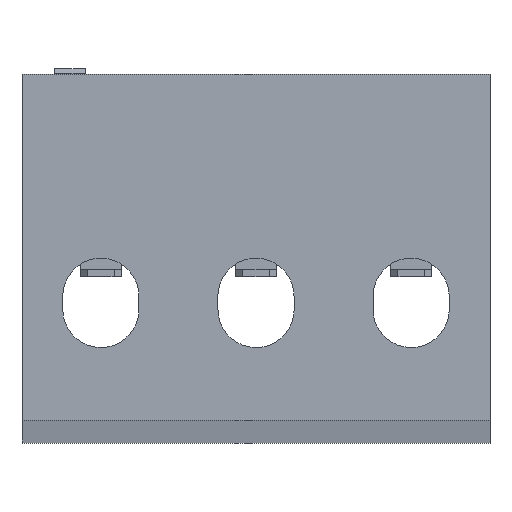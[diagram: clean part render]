
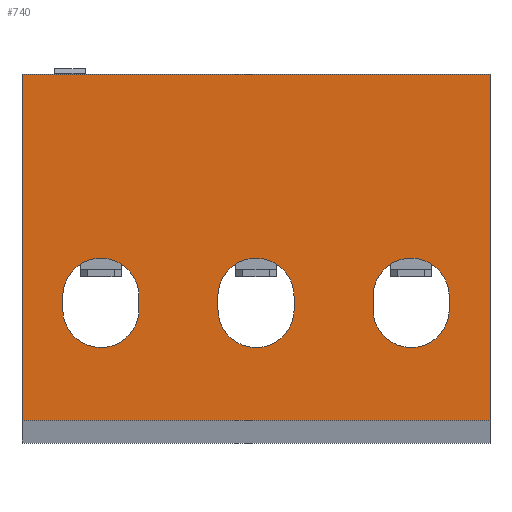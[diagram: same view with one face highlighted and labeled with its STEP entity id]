
A CAD part, front view. The second image highlights one B-rep face of the part: STEP entity #740.
In plain terms, the highlighted planar face has unit normal (0, -1, 0).
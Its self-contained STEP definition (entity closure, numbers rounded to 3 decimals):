
#141=CARTESIAN_POINT('',(-17.7,-4.5,1.75));
#142=DIRECTION('',(0.,-1.,0.));
#143=DIRECTION('',(-0.999,0.,0.035));
#144=AXIS2_PLACEMENT_3D('',#141,#142,#143);
#146=DIRECTION('',(0.,0.,-1.));
#147=VECTOR('',#146,1.5);
#148=CARTESIAN_POINT('',(-22.046,-4.5,1.75));
#149=LINE('',#148,#147);
#150=CARTESIAN_POINT('',(-17.7,-4.5,0.25));
#151=DIRECTION('',(0.,-1.,0.));
#152=DIRECTION('',(-1.,0.,0.));
#153=AXIS2_PLACEMENT_3D('',#150,#151,#152);
#155=CARTESIAN_POINT('',(-17.7,-4.5,0.25));
#156=DIRECTION('',(0.,-1.,0.));
#157=DIRECTION('',(0.999,0.,-0.035));
#158=AXIS2_PLACEMENT_3D('',#155,#156,#157);
#160=DIRECTION('',(0.,0.,1.));
#161=VECTOR('',#160,1.5);
#162=CARTESIAN_POINT('',(-13.354,-4.5,0.25));
#163=LINE('',#162,#161);
#164=CARTESIAN_POINT('',(-17.7,-4.5,1.75));
#165=DIRECTION('',(0.,-1.,0.));
#166=DIRECTION('',(1.,0.,0.));
#167=AXIS2_PLACEMENT_3D('',#164,#165,#166);
#169=CARTESIAN_POINT('',(0.,-4.5,1.75));
#170=DIRECTION('',(0.,-1.,0.));
#171=DIRECTION('',(-0.999,0.,0.035));
#172=AXIS2_PLACEMENT_3D('',#169,#170,#171);
#174=DIRECTION('',(0.,0.,-1.));
#175=VECTOR('',#174,1.5);
#176=CARTESIAN_POINT('',(-4.346,-4.5,1.75));
#177=LINE('',#176,#175);
#178=CARTESIAN_POINT('',(0.,-4.5,0.25));
#179=DIRECTION('',(0.,-1.,0.));
#180=DIRECTION('',(-1.,0.,0.));
#181=AXIS2_PLACEMENT_3D('',#178,#179,#180);
#183=CARTESIAN_POINT('',(0.,-4.5,0.25));
#184=DIRECTION('',(0.,-1.,0.));
#185=DIRECTION('',(0.999,0.,-0.035));
#186=AXIS2_PLACEMENT_3D('',#183,#184,#185);
#188=DIRECTION('',(0.,0.,1.));
#189=VECTOR('',#188,1.5);
#190=CARTESIAN_POINT('',(4.346,-4.5,0.25));
#191=LINE('',#190,#189);
#192=CARTESIAN_POINT('',(0.,-4.5,1.75));
#193=DIRECTION('',(0.,-1.,0.));
#194=DIRECTION('',(1.,0.,0.));
#195=AXIS2_PLACEMENT_3D('',#192,#193,#194);
#197=CARTESIAN_POINT('',(17.7,-4.5,1.75));
#198=DIRECTION('',(0.,-1.,0.));
#199=DIRECTION('',(-0.999,0.,0.035));
#200=AXIS2_PLACEMENT_3D('',#197,#198,#199);
#202=DIRECTION('',(0.,0.,-1.));
#203=VECTOR('',#202,1.5);
#204=CARTESIAN_POINT('',(13.354,-4.5,1.75));
#205=LINE('',#204,#203);
#206=CARTESIAN_POINT('',(17.7,-4.5,0.25));
#207=DIRECTION('',(0.,-1.,0.));
#208=DIRECTION('',(-1.,0.,0.));
#209=AXIS2_PLACEMENT_3D('',#206,#207,#208);
#211=CARTESIAN_POINT('',(17.7,-4.5,0.25));
#212=DIRECTION('',(0.,-1.,0.));
#213=DIRECTION('',(0.999,0.,-0.035));
#214=AXIS2_PLACEMENT_3D('',#211,#212,#213);
#216=DIRECTION('',(0.,0.,1.));
#217=VECTOR('',#216,1.5);
#218=CARTESIAN_POINT('',(22.046,-4.5,0.25));
#219=LINE('',#218,#217);
#220=CARTESIAN_POINT('',(17.7,-4.5,1.75));
#221=DIRECTION('',(0.,-1.,0.));
#222=DIRECTION('',(1.,0.,0.));
#223=AXIS2_PLACEMENT_3D('',#220,#221,#222);
#225=DIRECTION('',(1.,0.,0.));
#226=VECTOR('',#225,53.4);
#227=CARTESIAN_POINT('',(-26.7,-4.5,-12.414));
#228=LINE('',#227,#226);
#229=DIRECTION('',(0.,0.,1.));
#230=VECTOR('',#229,39.491);
#231=CARTESIAN_POINT('',(-26.7,-4.5,-12.414));
#232=LINE('',#231,#230);
#233=DIRECTION('',(1.,0.,0.));
#234=VECTOR('',#233,53.4);
#235=CARTESIAN_POINT('',(-26.7,-4.5,27.078));
#236=LINE('',#235,#234);
#237=DIRECTION('',(0.,0.,-1.));
#238=VECTOR('',#237,39.491);
#239=CARTESIAN_POINT('',(26.7,-4.5,27.078));
#240=LINE('',#239,#238);
#455=CARTESIAN_POINT('',(-26.7,-4.5,27.078));
#456=CARTESIAN_POINT('',(26.7,-4.5,27.078));
#457=VERTEX_POINT('',#455);
#458=VERTEX_POINT('',#456);
#459=CARTESIAN_POINT('',(-22.043,-4.5,1.903));
#460=CARTESIAN_POINT('',(-22.046,-4.5,1.75));
#461=VERTEX_POINT('',#459);
#462=VERTEX_POINT('',#460);
#463=CARTESIAN_POINT('',(-22.046,-4.5,0.25));
#464=VERTEX_POINT('',#463);
#465=CARTESIAN_POINT('',(-13.357,-4.5,0.097));
#466=VERTEX_POINT('',#465);
#467=CARTESIAN_POINT('',(-13.354,-4.5,0.25));
#468=VERTEX_POINT('',#467);
#469=CARTESIAN_POINT('',(-13.354,-4.5,1.75));
#470=VERTEX_POINT('',#469);
#471=CARTESIAN_POINT('',(-4.343,-4.5,1.903));
#472=CARTESIAN_POINT('',(-4.346,-4.5,1.75));
#473=VERTEX_POINT('',#471);
#474=VERTEX_POINT('',#472);
#475=CARTESIAN_POINT('',(-4.346,-4.5,0.25));
#476=VERTEX_POINT('',#475);
#477=CARTESIAN_POINT('',(4.343,-4.5,0.097));
#478=VERTEX_POINT('',#477);
#479=CARTESIAN_POINT('',(4.346,-4.5,0.25));
#480=VERTEX_POINT('',#479);
#481=CARTESIAN_POINT('',(4.346,-4.5,1.75));
#482=VERTEX_POINT('',#481);
#483=CARTESIAN_POINT('',(13.357,-4.5,1.903));
#484=CARTESIAN_POINT('',(13.354,-4.5,1.75));
#485=VERTEX_POINT('',#483);
#486=VERTEX_POINT('',#484);
#487=CARTESIAN_POINT('',(13.354,-4.5,0.25));
#488=VERTEX_POINT('',#487);
#489=CARTESIAN_POINT('',(22.043,-4.5,0.097));
#490=VERTEX_POINT('',#489);
#491=CARTESIAN_POINT('',(22.046,-4.5,0.25));
#492=VERTEX_POINT('',#491);
#493=CARTESIAN_POINT('',(22.046,-4.5,1.75));
#494=VERTEX_POINT('',#493);
#499=CARTESIAN_POINT('',(-26.7,-4.5,-12.414));
#500=VERTEX_POINT('',#499);
#505=CARTESIAN_POINT('',(26.7,-4.5,-12.414));
#506=VERTEX_POINT('',#505);
#689=CARTESIAN_POINT('',(-26.7,-4.5,27.2));
#690=DIRECTION('',(0.,-1.,0.));
#691=DIRECTION('',(0.,0.,-1.));
#692=AXIS2_PLACEMENT_3D('',#689,#690,#691);
#693=PLANE('',#692);
#695=ORIENTED_EDGE('',*,*,#694,.F.);
#697=ORIENTED_EDGE('',*,*,#696,.T.);
#699=ORIENTED_EDGE('',*,*,#698,.T.);
#701=ORIENTED_EDGE('',*,*,#700,.T.);
#702=EDGE_LOOP('',(#695,#697,#699,#701));
#703=FACE_OUTER_BOUND('',#702,.F.);
#704=ORIENTED_EDGE('',*,*,#613,.T.);
#705=ORIENTED_EDGE('',*,*,#628,.T.);
#706=ORIENTED_EDGE('',*,*,#642,.T.);
#707=ORIENTED_EDGE('',*,*,#656,.T.);
#708=ORIENTED_EDGE('',*,*,#670,.T.);
#709=ORIENTED_EDGE('',*,*,#683,.T.);
#710=EDGE_LOOP('',(#704,#705,#706,#707,#708,#709));
#711=FACE_BOUND('',#710,.F.);
#713=ORIENTED_EDGE('',*,*,#712,.T.);
#715=ORIENTED_EDGE('',*,*,#714,.T.);
#717=ORIENTED_EDGE('',*,*,#716,.T.);
#719=ORIENTED_EDGE('',*,*,#718,.T.);
#721=ORIENTED_EDGE('',*,*,#720,.T.);
#723=ORIENTED_EDGE('',*,*,#722,.T.);
#724=EDGE_LOOP('',(#713,#715,#717,#719,#721,#723));
#725=FACE_BOUND('',#724,.F.);
#727=ORIENTED_EDGE('',*,*,#726,.T.);
#729=ORIENTED_EDGE('',*,*,#728,.T.);
#731=ORIENTED_EDGE('',*,*,#730,.T.);
#733=ORIENTED_EDGE('',*,*,#732,.T.);
#735=ORIENTED_EDGE('',*,*,#734,.T.);
#737=ORIENTED_EDGE('',*,*,#736,.T.);
#738=EDGE_LOOP('',(#727,#729,#731,#733,#735,#737));
#739=FACE_BOUND('',#738,.F.);
#740=ADVANCED_FACE('',(#703,#711,#725,#739),#693,.T.);
#145=CIRCLE('',#144,4.346);
#154=CIRCLE('',#153,4.346);
#159=CIRCLE('',#158,4.346);
#168=CIRCLE('',#167,4.346);
#173=CIRCLE('',#172,4.346);
#182=CIRCLE('',#181,4.346);
#187=CIRCLE('',#186,4.346);
#196=CIRCLE('',#195,4.346);
#201=CIRCLE('',#200,4.346);
#210=CIRCLE('',#209,4.346);
#215=CIRCLE('',#214,4.346);
#224=CIRCLE('',#223,4.346);
#613=EDGE_CURVE('',#461,#462,#145,.T.);
#628=EDGE_CURVE('',#462,#464,#149,.T.);
#642=EDGE_CURVE('',#464,#466,#154,.T.);
#656=EDGE_CURVE('',#466,#468,#159,.T.);
#670=EDGE_CURVE('',#468,#470,#163,.T.);
#683=EDGE_CURVE('',#470,#461,#168,.T.);
#694=EDGE_CURVE('',#500,#506,#228,.T.);
#696=EDGE_CURVE('',#500,#457,#232,.T.);
#698=EDGE_CURVE('',#457,#458,#236,.T.);
#700=EDGE_CURVE('',#458,#506,#240,.T.);
#712=EDGE_CURVE('',#473,#474,#173,.T.);
#714=EDGE_CURVE('',#474,#476,#177,.T.);
#716=EDGE_CURVE('',#476,#478,#182,.T.);
#718=EDGE_CURVE('',#478,#480,#187,.T.);
#720=EDGE_CURVE('',#480,#482,#191,.T.);
#722=EDGE_CURVE('',#482,#473,#196,.T.);
#726=EDGE_CURVE('',#485,#486,#201,.T.);
#728=EDGE_CURVE('',#486,#488,#205,.T.);
#730=EDGE_CURVE('',#488,#490,#210,.T.);
#732=EDGE_CURVE('',#490,#492,#215,.T.);
#734=EDGE_CURVE('',#492,#494,#219,.T.);
#736=EDGE_CURVE('',#494,#485,#224,.T.);
